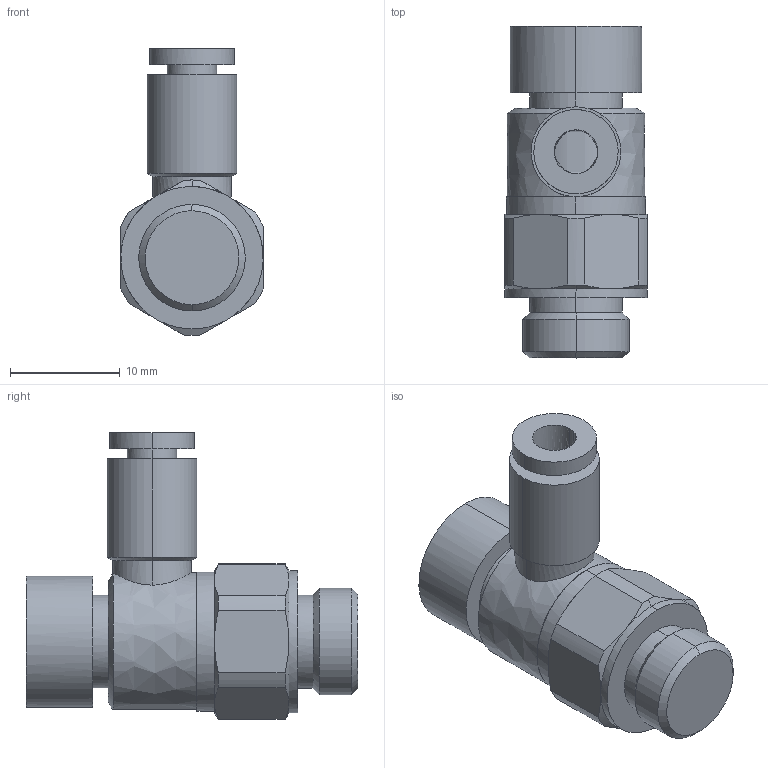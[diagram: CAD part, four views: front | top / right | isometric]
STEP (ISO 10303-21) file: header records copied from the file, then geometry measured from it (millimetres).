
FILE_DESCRIPTION (( 'STEP AP214' ), '1' );
FILE_NAME ('AS2211FC-G01-04A.STEP', '2023-03-08T09:02:48', ( 'Windows User' ), ( 'P R C' ), 'SwSTEP 2.0', 'SolidWorks 2019', '' );
FILE_SCHEMA (( 'AUTOMOTIVE_DESIGN' ));
Length unit declared in the file: millimetre
Products named in the file (1): AS2211FC-G01-04A
Bounding box: 13.01 x 30.3 x 26.2 mm (x, y, z)
Volume: 3899.6 mm3; surface area: 2102.2 mm2
Topology: 1 solids, 1 shells, 73 faces, 169 edges, 107 vertices
Faces by surface type: bspline 55, plane 18
Entity records: 2867 total; most frequent: CARTESIAN_POINT 1791, ORIENTED_EDGE 338, EDGE_CURVE 169, VERTEX_POINT 107, B_SPLINE_CURVE_WITH_KNOTS 104, EDGE_LOOP 82, ADVANCED_FACE 73, FACE_OUTER_BOUND 73
